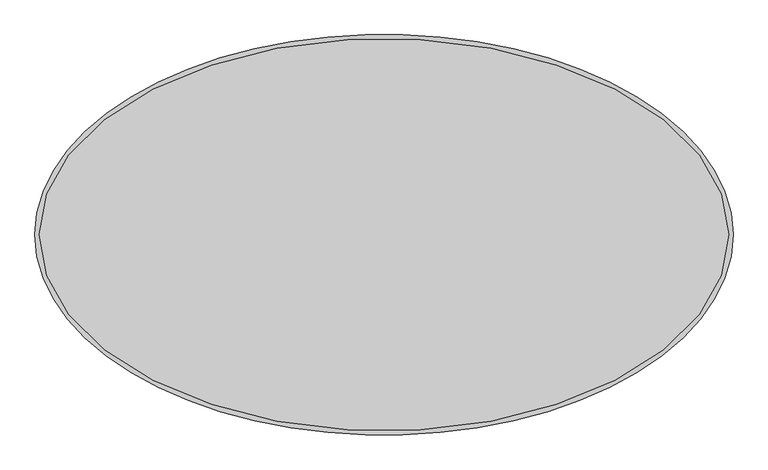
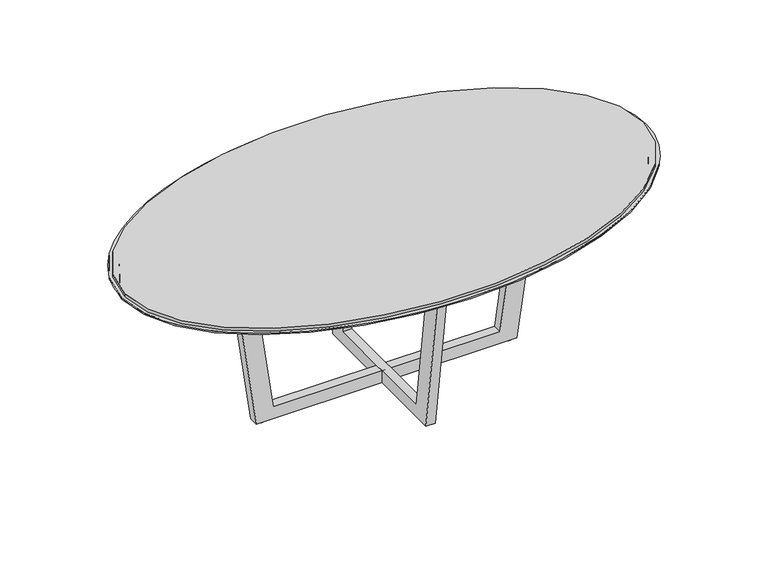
"""IFC4 building model written with IfcOpenShell, lengths in millimetres: furniture geometry, Knoll_Datesweiser_Tables_Meeting_Highline_Elliptical : 48W Caesartone Open."""

from ifc_helpers import new_model, si_unit, point, frame, origin, place, context, project, spatial, polyline, circle_curve, ellipse_curve, trimmed, outline, extrude, source, transform, mapped, element, save
from ifc_brep_helpers import plane_surface, cylinder_surface, extruded_surface, advanced_brep


def furniture_d2207c9c(model_context):
    return source(origin(), model_context, "Body", "SolidModel", [
        advanced_brep(
        [(1060.45, 0.0, 742.95), (-1060.45, 0.0, 742.95), (1060.45, 0.0, 730.2499758), (-1060.45, 0.0, 730.2499758)],
        [
            (0, 1, ellipse_curve(frame((0.0, 0.0, 742.95), z_axis=(0.0, 0.0, 1.0), x_axis=(-1.0, 0.0, 0.0)), 1060.45, 603.25)),
            (1, 0, ellipse_curve(frame((0.0, 0.0, 742.95), z_axis=(0.0, 0.0, 1.0), x_axis=(-1.0, 0.0, 0.0)), 1060.45, 603.25)),
            (2, 3, ellipse_curve(frame((0.0, 0.0, 730.2499758), z_axis=(0.0, 0.0, -1.0), x_axis=(-1.0, 0.0, 0.0)), 1060.45, 603.25)),
            (3, 2, ellipse_curve(frame((0.0, 0.0, 730.2499758), z_axis=(0.0, 0.0, -1.0), x_axis=(-1.0, 0.0, 0.0)), 1060.45, 603.25)),
            (0, 2),
            (3, 1),
        ],
        [
            plane_surface(frame((-1060.45, 0.0, 742.95), z_axis=(0.0, 0.0, 1.0), x_axis=(0.0, -1.0, 0.0))),
            plane_surface(frame((-1060.45, 0.0, 730.2499758), z_axis=(0.0, 0.0, -1.0), x_axis=(0.0, 1.0, 0.0))),
            extruded_surface(trimmed(ellipse_curve(frame((0.0, 0.0, 717.5499516), z_axis=(0.0, 0.0, 1.0), x_axis=(-1.0, 0.0, 0.0)), 1060.45, 603.25), [point((1060.45, 0.0, 717.5499516))], [point((-1060.45, 0.0, 717.5499516))], True, "CARTESIAN"), (0.0, 0.0, 12.70002420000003), 12.70002420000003),
            extruded_surface(trimmed(ellipse_curve(frame((0.0, 0.0, 717.5499516), z_axis=(0.0, 0.0, 1.0), x_axis=(-1.0, 0.0, 0.0)), 1060.45, 603.25), [point((-1060.45, 0.0, 717.5499516))], [point((1060.45, 0.0, 717.5499516))], True, "CARTESIAN"), (0.0, 0.0, 12.70002420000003), 12.70002420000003),
        ],
        [
            (0, [[1, 2]]),
            (1, [[3, 4]]),
            (2, [[-1, 5, -4, 6]]),
            (3, [[-2, -6, -3, -5]]),
        ],
    ),
        advanced_brep(
        [(1060.45, 0.0, 742.95), (-1060.45, 0.0, 742.95), (1060.45, 0.0, 730.2499758), (-1060.45, 0.0, 730.2499758)],
        [
            (0, 1, ellipse_curve(frame((0.0, 0.0, 742.95), z_axis=(0.0, 0.0, 1.0), x_axis=(-1.0, 0.0, 0.0)), 1060.45, 603.25)),
            (1, 0, ellipse_curve(frame((0.0, 0.0, 742.95), z_axis=(0.0, 0.0, 1.0), x_axis=(-1.0, 0.0, 0.0)), 1060.45, 603.25)),
            (2, 3, ellipse_curve(frame((0.0, 0.0, 730.2499758), z_axis=(0.0, 0.0, -1.0), x_axis=(-1.0, 0.0, 0.0)), 1060.45, 603.25)),
            (3, 2, ellipse_curve(frame((0.0, 0.0, 730.2499758), z_axis=(0.0, 0.0, -1.0), x_axis=(-1.0, 0.0, 0.0)), 1060.45, 603.25)),
            (0, 2),
            (3, 1),
        ],
        [
            plane_surface(frame((-1060.45, 0.0, 742.95), z_axis=(0.0, 0.0, 1.0), x_axis=(0.0, -1.0, 0.0))),
            plane_surface(frame((-1060.45, 0.0, 730.2499758), z_axis=(0.0, 0.0, -1.0), x_axis=(0.0, 1.0, 0.0))),
            extruded_surface(trimmed(ellipse_curve(frame((0.0, 0.0, 717.5499516), z_axis=(0.0, 0.0, 1.0), x_axis=(-1.0, 0.0, 0.0)), 1060.45, 603.25), [point((1060.45, 0.0, 717.5499516))], [point((-1060.45, 0.0, 717.5499516))], True, "CARTESIAN"), (0.0, 0.0, 12.70002420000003), 12.70002420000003),
            extruded_surface(trimmed(ellipse_curve(frame((0.0, 0.0, 717.5499516), z_axis=(0.0, 0.0, 1.0), x_axis=(-1.0, 0.0, 0.0)), 1060.45, 603.25), [point((-1060.45, 0.0, 717.5499516))], [point((1060.45, 0.0, 717.5499516))], True, "CARTESIAN"), (0.0, 0.0, 12.70002420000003), 12.70002420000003),
        ],
        [
            (0, [[1, 2]]),
            (1, [[3, 4]]),
            (2, [[-1, 5, -4, 6]]),
            (3, [[-2, -6, -3, -5]]),
        ],
    ),
        advanced_brep(
        [(1038.0773346, 0.0, 725.1700242), (-1038.0773346, 0.0, 725.1700242), (1018.8463863, 0.0, 725.1700242), (-1018.8463863, 0.0, 725.1700242), (1038.0773346, 0.0, 698.5000242), (-1038.0773346, 0.0, 698.5000242), (1018.8463863, 0.0, 698.5000242), (-1018.8463863, 0.0, 698.5000242)],
        [
            (0, 1, ellipse_curve(frame((0.0, 0.0, 725.1700242), z_axis=(0.0, 0.0, 1.0), x_axis=(-1.0, 0.0, 0.0)), 1038.0773346, 567.69)),
            (1, 0, ellipse_curve(frame((0.0, 0.0, 725.1700242), z_axis=(0.0, 0.0, 1.0), x_axis=(-1.0, 0.0, 0.0)), 1038.0773346, 567.69)),
            (2, 3, ellipse_curve(frame((0.0, 0.0, 725.1700242), z_axis=(0.0, 0.0, -1.0), x_axis=(-1.0, 0.0, 0.0)), 1018.8463863, 537.6576762)),
            (3, 2, ellipse_curve(frame((0.0, 0.0, 725.1700242), z_axis=(0.0, 0.0, -1.0), x_axis=(-1.0, 0.0, 0.0)), 1018.8463863, 537.6576762)),
            (4, 5, ellipse_curve(frame((0.0, 0.0, 698.5000242), z_axis=(0.0, 0.0, -1.0), x_axis=(-1.0, 0.0, 0.0)), 1038.0773346, 567.69)),
            (5, 4, ellipse_curve(frame((0.0, 0.0, 698.5000242), z_axis=(0.0, 0.0, -1.0), x_axis=(-1.0, 0.0, 0.0)), 1038.0773346, 567.69)),
            (6, 7, ellipse_curve(frame((0.0, 0.0, 698.5000242), z_axis=(0.0, 0.0, 1.0), x_axis=(-1.0, 0.0, 0.0)), 1018.8463863, 537.6576762)),
            (7, 6, ellipse_curve(frame((0.0, 0.0, 698.5000242), z_axis=(0.0, 0.0, 1.0), x_axis=(-1.0, 0.0, 0.0)), 1018.8463863, 537.6576762)),
            (0, 4),
            (5, 1),
            (2, 6),
            (7, 3),
        ],
        [
            plane_surface(frame((-1038.0773346, 0.0, 725.1700242), z_axis=(0.0, 0.0, 1.0), x_axis=(0.0, -1.0, 0.0))),
            plane_surface(frame((-1038.0773346, 0.0, 698.5000242), z_axis=(0.0, 0.0, -1.0), x_axis=(0.0, 1.0, 0.0))),
            extruded_surface(trimmed(ellipse_curve(frame((0.0, 0.0, 671.8300242), z_axis=(0.0, 0.0, 1.0), x_axis=(-1.0, 0.0, 0.0)), 1038.0773346, 567.69), [point((1038.0773346, 0.0, 671.8300242))], [point((-1038.0773346, 0.0, 671.8300242))], True, "CARTESIAN"), (0.0, 0.0, 26.66999999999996), 26.66999999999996),
            extruded_surface(trimmed(ellipse_curve(frame((0.0, 0.0, 671.8300242), z_axis=(0.0, 0.0, 1.0), x_axis=(-1.0, 0.0, 0.0)), 1038.0773346, 567.69), [point((-1038.0773346, 0.0, 671.8300242))], [point((1038.0773346, 0.0, 671.8300242))], True, "CARTESIAN"), (0.0, 0.0, 26.66999999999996), 26.66999999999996),
            extruded_surface(trimmed(ellipse_curve(frame((0.0, 0.0, 671.8300242), z_axis=(0.0, 0.0, -1.0), x_axis=(-1.0, 0.0, 0.0)), 1018.8463863, 537.6576762), [point((1018.8463863, 0.0, 671.8300242))], [point((-1018.8463863, 0.0, 671.8300242))], True, "CARTESIAN"), (0.0, 0.0, 26.66999999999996), 26.66999999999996),
            extruded_surface(trimmed(ellipse_curve(frame((0.0, 0.0, 671.8300242), z_axis=(0.0, 0.0, -1.0), x_axis=(-1.0, 0.0, 0.0)), 1018.8463863, 537.6576762), [point((-1018.8463863, 0.0, 671.8300242))], [point((1018.8463863, 0.0, 671.8300242))], True, "CARTESIAN"), (0.0, 0.0, 26.66999999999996), 26.66999999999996),
        ],
        [
            (0, [[1, 2], [3, 4]]),
            (1, [[5, 6], [7, 8]]),
            (2, [[-1, 9, -6, 10]]),
            (3, [[-2, -10, -5, -9]]),
            (4, [[-3, 11, -8, 12]]),
            (5, [[-4, -12, -7, -11]]),
        ],
    ),
        advanced_brep(
        [(1073.15, 0.0, 723.9), (-1073.15, 0.0, 723.9), (1073.15, 0.0, 730.2499758), (-1073.15, 0.0, 730.2499758)],
        [
            (0, 1, ellipse_curve(frame((0.0, 0.0, 723.9), z_axis=(0.0, 0.0, -1.0), x_axis=(-1.0, 0.0, 0.0)), 1073.15, 615.95)),
            (1, 0, ellipse_curve(frame((0.0, 0.0, 723.9), z_axis=(0.0, 0.0, -1.0), x_axis=(-1.0, 0.0, 0.0)), 1073.15, 615.95)),
            (2, 3, ellipse_curve(frame((0.0, 0.0, 730.2499758), z_axis=(0.0, 0.0, 1.0), x_axis=(-1.0, 0.0, 0.0)), 1073.15, 615.95)),
            (3, 2, ellipse_curve(frame((0.0, 0.0, 730.2499758), z_axis=(0.0, 0.0, 1.0), x_axis=(-1.0, 0.0, 0.0)), 1073.15, 615.95)),
            (0, 2),
            (3, 1),
        ],
        [
            plane_surface(frame((-1073.15, 0.0, 723.9), z_axis=(0.0, 0.0, -1.0), x_axis=(0.0, 1.0, 0.0))),
            plane_surface(frame((-1073.15, 0.0, 730.2499758), z_axis=(0.0, 0.0, 1.0), x_axis=(0.0, -1.0, 0.0))),
            extruded_surface(trimmed(ellipse_curve(frame((0.0, 0.0, 736.5999516), z_axis=(0.0, 0.0, -1.0), x_axis=(-1.0, 0.0, 0.0)), 1073.15, 615.95), [point((1073.15, 0.0, 736.5999516))], [point((-1073.15, 0.0, 736.5999516))], True, "CARTESIAN"), (0.0, 0.0, -6.349975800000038), 6.349975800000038),
            extruded_surface(trimmed(ellipse_curve(frame((0.0, 0.0, 736.5999516), z_axis=(0.0, 0.0, -1.0), x_axis=(-1.0, 0.0, 0.0)), 1073.15, 615.95), [point((-1073.15, 0.0, 736.5999516))], [point((1073.15, 0.0, 736.5999516))], True, "CARTESIAN"), (0.0, 0.0, -6.349975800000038), 6.349975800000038),
        ],
        [
            (0, [[1, 2]]),
            (1, [[3, 4]]),
            (2, [[-1, 5, -4, 6]]),
            (3, [[-2, -6, -3, -5]]),
        ],
    ),
        advanced_brep(
        [(0.0, 304.8, 0.0), (0.0, 317.2460063, 0.0), (0.0, 292.3539937, 0.0), (0.0, 317.2460063, 5.9867797), (0.0, 292.3539937, 5.9867797), (0.0, 304.8, 5.9867797)],
        [
            (0, 1),
            (1, 2, circle_curve(frame((0.0, 304.8, 0.0), z_axis=(0.0, 0.0, -1.0), x_axis=(0.0, 1.0, 0.0)), 12.4460063)),
            (2, 0),
            (2, 1, circle_curve(frame((0.0, 304.8, 0.0), z_axis=(0.0, 0.0, -1.0), x_axis=(0.0, 1.0, 0.0)), 12.4460063)),
            (1, 3),
            (3, 4, circle_curve(frame((0.0, 304.8, 5.9867797), z_axis=(0.0, 0.0, -1.0), x_axis=(0.0, 1.0, 0.0)), 12.4460063)),
            (4, 2),
            (4, 3, circle_curve(frame((0.0, 304.8, 5.9867797), z_axis=(0.0, 0.0, -1.0), x_axis=(0.0, 1.0, 0.0)), 12.4460063)),
            (3, 5),
            (5, 4),
        ],
        [
            plane_surface(frame((0.0, 304.8, 0.0), z_axis=(0.0, 0.0, -1.0), x_axis=(0.0, 1.0, 0.0))),
            cylinder_surface(frame((0.0, 304.8, 0.0), z_axis=(0.0, 0.0, -1.0), x_axis=(0.0, 1.0, 0.0)), 12.4460063),
            plane_surface(frame((0.0, 304.8, 5.9867797), z_axis=(0.0, 0.0, 1.0), x_axis=(0.0, 1.0, 0.0))),
        ],
        [
            (0, [[1, 2, 3]]),
            (0, [[-3, 4, -1]]),
            (1, [[-2, 5, 6, 7]]),
            (1, [[-4, -7, 8, -5]]),
            (2, [[-6, 9, 10]]),
            (2, [[-8, -10, -9]]),
        ],
    ),
        advanced_brep(
        [(0.0, -292.3539937, 0.0), (0.0, -317.2460063, 0.0), (0.0, -304.8, 0.0), (0.0, -292.3539937, 5.9867797), (0.0, -317.2460063, 5.9867797), (0.0, -304.8, 5.9867797)],
        [
            (0, 1, circle_curve(frame((0.0, -304.8, 0.0), z_axis=(0.0, 0.0, -1.0), x_axis=(0.0, -1.0, 0.0)), 12.4460063)),
            (1, 2),
            (2, 0),
            (1, 0, circle_curve(frame((0.0, -304.8, 0.0), z_axis=(0.0, 0.0, -1.0), x_axis=(0.0, -1.0, 0.0)), 12.4460063)),
            (3, 4, circle_curve(frame((0.0, -304.8, 5.9867797), z_axis=(0.0, 0.0, -1.0), x_axis=(0.0, -1.0, 0.0)), 12.4460063)),
            (4, 1),
            (0, 3),
            (4, 3, circle_curve(frame((0.0, -304.8, 5.9867797), z_axis=(0.0, 0.0, -1.0), x_axis=(0.0, -1.0, 0.0)), 12.4460063)),
            (5, 4),
            (3, 5),
        ],
        [
            plane_surface(frame((0.0, -304.8, 0.0), z_axis=(0.0, 0.0, -1.0), x_axis=(0.0, -1.0, 0.0))),
            cylinder_surface(frame((0.0, -304.8, 0.0), z_axis=(0.0, 0.0, 1.0), x_axis=(0.0, -1.0, 0.0)), 12.4460063),
            plane_surface(frame((0.0, -304.8, 5.9867797), z_axis=(0.0, 0.0, 1.0), x_axis=(0.0, -1.0, 0.0))),
        ],
        [
            (0, [[1, 2, 3]]),
            (0, [[4, -3, -2]]),
            (1, [[5, 6, -1, 7]]),
            (1, [[8, -7, -4, -6]]),
            (2, [[9, -5, 10]]),
            (2, [[-10, -8, -9]]),
        ],
    ),
        advanced_brep(
        [(-507.9999879, 0.0, 0.0), (-520.451941, 0.0, 0.0), (-495.5480348, 0.0, 0.0), (-520.451941, 0.0, 5.9867797), (-495.5480348, 0.0, 5.9867797), (-507.9999879, 0.0, 5.9867797)],
        [
            (0, 1),
            (1, 2, circle_curve(frame((-507.9999879, 0.0, 0.0), z_axis=(0.0, 0.0, -1.0), x_axis=(-1.0, 0.0, 0.0)), 12.4519531)),
            (2, 0),
            (2, 1, circle_curve(frame((-507.9999879, 0.0, 0.0), z_axis=(0.0, 0.0, -1.0), x_axis=(-1.0, 0.0, 0.0)), 12.4519531)),
            (1, 3),
            (3, 4, circle_curve(frame((-507.9999879, 0.0, 5.9867797), z_axis=(0.0, 0.0, -1.0), x_axis=(-1.0, 0.0, 0.0)), 12.4519531)),
            (4, 2),
            (4, 3, circle_curve(frame((-507.9999879, 0.0, 5.9867797), z_axis=(0.0, 0.0, -1.0), x_axis=(-1.0, 0.0, 0.0)), 12.4519531)),
            (3, 5),
            (5, 4),
        ],
        [
            plane_surface(frame((-507.9999879, 0.0, 0.0), z_axis=(0.0, 0.0, -1.0), x_axis=(-1.0, 0.0, 0.0))),
            cylinder_surface(frame((-507.9999879, 0.0, 5.9867797), z_axis=(0.0, 0.0, -1.0), x_axis=(-1.0, 0.0, 0.0)), 12.4519531),
            plane_surface(frame((-507.9999879, 0.0, 5.9867797), z_axis=(0.0, 0.0, 1.0), x_axis=(-1.0, 0.0, 0.0))),
        ],
        [
            (0, [[1, 2, 3]]),
            (0, [[-3, 4, -1]]),
            (1, [[-2, 5, 6, 7]]),
            (1, [[-4, -7, 8, -5]]),
            (2, [[-6, 9, 10]]),
            (2, [[-8, -10, -9]]),
        ],
    ),
        advanced_brep(
        [(495.5480348, 0.0, 0.0), (520.451941, 0.0, 0.0), (507.9999879, 0.0, 0.0), (495.5480348, 0.0, 5.9867797), (520.451941, 0.0, 5.9867797), (507.9999879, 0.0, 5.9867797)],
        [
            (0, 1, circle_curve(frame((507.9999879, 0.0, 0.0), z_axis=(0.0, 0.0, -1.0), x_axis=(1.0, 0.0, 0.0)), 12.4519531)),
            (1, 2),
            (2, 0),
            (1, 0, circle_curve(frame((507.9999879, 0.0, 0.0), z_axis=(0.0, 0.0, -1.0), x_axis=(1.0, 0.0, 0.0)), 12.4519531)),
            (3, 4, circle_curve(frame((507.9999879, 0.0, 5.9867797), z_axis=(0.0, 0.0, -1.0), x_axis=(1.0, 0.0, 0.0)), 12.4519531)),
            (4, 1),
            (0, 3),
            (4, 3, circle_curve(frame((507.9999879, 0.0, 5.9867797), z_axis=(0.0, 0.0, -1.0), x_axis=(1.0, 0.0, 0.0)), 12.4519531)),
            (5, 4),
            (3, 5),
        ],
        [
            plane_surface(frame((507.9999879, 0.0, 0.0), z_axis=(0.0, 0.0, -1.0), x_axis=(1.0, 0.0, 0.0))),
            cylinder_surface(frame((507.9999879, 0.0, 5.9867797), z_axis=(0.0, 0.0, 1.0), x_axis=(1.0, 0.0, 0.0)), 12.4519531),
            plane_surface(frame((507.9999879, 0.0, 5.9867797), z_axis=(0.0, 0.0, 1.0), x_axis=(1.0, 0.0, 0.0))),
        ],
        [
            (0, [[1, 2, 3]]),
            (0, [[4, -3, -2]]),
            (1, [[5, 6, -1, 7]]),
            (1, [[8, -7, -4, -6]]),
            (2, [[9, -5, 10]]),
            (2, [[-10, -8, -9]]),
        ],
    ),
        extrude(outline(polyline([(-426.832804, 693.5648108), (-349.8839366, 693.5648108), (-260.3906083, 56.7867818), (260.3906083, 56.7867818), (349.8839366, 693.5648108), (426.8328036, 693.5648108), (330.1999996, 5.9867797), (-330.2, 5.9867797), (-426.832804, 693.5648108)])), frame((-19.05, 0.0, 0.0), z_axis=(1.0, 0.0, 0.0), x_axis=(0.0, 1.0, 0.0)), (0.0, 0.0, 1.0), 38.1),
        extrude(outline(polyline([(693.5648108, -630.0328044), (5.9867797, -533.4000004), (5.9867797, 533.4), (693.5648108, 630.032804), (693.5648108, 553.083937), (56.7867818, 463.5906087), (56.7867818, -463.5906087), (693.5648108, -553.083937), (693.5648108, -630.0328044)])), frame((0.0, -19.05, 0.0), z_axis=(0.0, 1.0, 0.0), x_axis=(0.0, 0.0, 1.0)), (0.0, 0.0, 1.0), 38.1),
    ])


if __name__ == "__main__":
    model = new_model("IFC4")
    model_context = context("Model", 3, world=origin())
    ifc_project = project(units=[si_unit("LENGTHUNIT", "METRE", prefix="MILLI")], contexts=[model_context])
    site = spatial("IfcSite", under=ifc_project)
    building = spatial("IfcBuilding", under=site)
    placement = place(None, origin())
    furniture_shape = furniture_d2207c9c(model_context)
    element("IfcFurniture", 1, ObjectType="Knoll_Datesweiser_Tables_Meeting_Highline_Elliptical : 48W Caesartone Open", at=placement, inside=building, context=model_context, shape_type="MappedRepresentation", body=[
        mapped(furniture_shape, transform((0.0, 0.0, 0.0), x_axis=(1.0, 0.0, 0.0), y_axis=(0.0, 1.0, 0.0), z_axis=(0.0, 0.0, 1.0))),
    ])
    save(model, "model.ifc")
